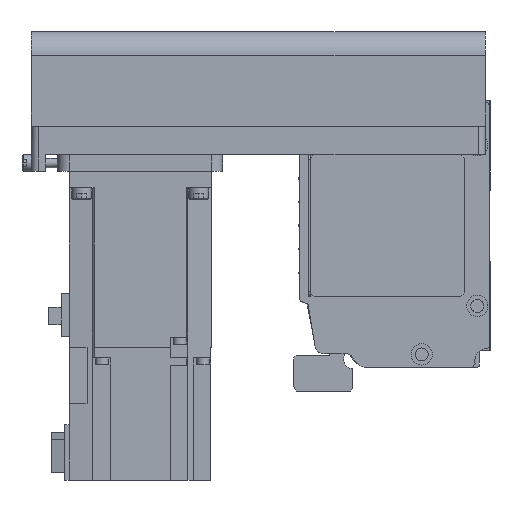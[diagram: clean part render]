
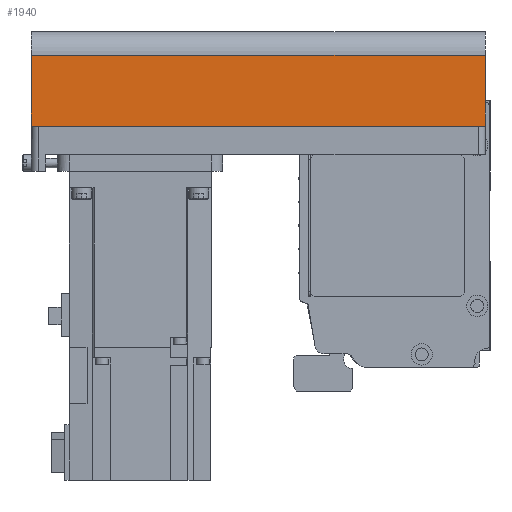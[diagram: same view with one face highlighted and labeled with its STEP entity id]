
A CAD part, left-side view. The second image highlights one B-rep face of the part: STEP entity #1940.
In plain terms, the highlighted planar face has unit normal (-1, 0, 0) as drawn and (0, 1, 0) by its records, which use the part's own axes.
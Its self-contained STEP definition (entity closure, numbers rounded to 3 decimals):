
#1940 = ADVANCED_FACE( '', ( #4096 ), #4097, .T. );
#4096 = FACE_OUTER_BOUND( '', #6440, .T. );
#4097 = PLANE( '', #6441 );
#6440 = EDGE_LOOP( '', ( #11847, #11848, #11849, #11850 ) );
#6441 = AXIS2_PLACEMENT_3D( '', #11851, #11852, #11853 );
#11847 = ORIENTED_EDGE( '', *, *, #14299, .F. );
#11848 = ORIENTED_EDGE( '', *, *, #14480, .F. );
#11849 = ORIENTED_EDGE( '', *, *, #15552, .T. );
#11850 = ORIENTED_EDGE( '', *, *, #15553, .T. );
#11851 = CARTESIAN_POINT( '', ( -192., 40., -42. ) );
#11852 = DIRECTION( '', ( 0., 1., 0. ) );
#11853 = DIRECTION( '', ( 0., 0., 1. ) );
#14299 = EDGE_CURVE( '', #17432, #17433, #17434, .T. );
#14480 = EDGE_CURVE( '', #17721, #17432, #17723, .T. );
#15552 = EDGE_CURVE( '', #17721, #18535, #19165, .T. );
#15553 = EDGE_CURVE( '', #18535, #17433, #19166, .T. );
#17432 = VERTEX_POINT( '', #21624 );
#17433 = VERTEX_POINT( '', #21625 );
#17434 = LINE( '', #21626, #21627 );
#17721 = VERTEX_POINT( '', #22007 );
#17723 = LINE( '', #22009, #22010 );
#18535 = VERTEX_POINT( '', #23106 );
#19165 = LINE( '', #23970, #23971 );
#19166 = LINE( '', #23972, #23973 );
#21624 = CARTESIAN_POINT( '', ( 0., 40., -42. ) );
#21625 = CARTESIAN_POINT( '', ( 0., 40., -12.1 ) );
#21626 = CARTESIAN_POINT( '', ( 0., 40., -42. ) );
#21627 = VECTOR( '', #25514, 1000. );
#22007 = CARTESIAN_POINT( '', ( -192., 40., -42. ) );
#22009 = CARTESIAN_POINT( '', ( -192., 40., -42. ) );
#22010 = VECTOR( '', #25761, 1000. );
#23106 = CARTESIAN_POINT( '', ( -192., 40., -12.1 ) );
#23970 = CARTESIAN_POINT( '', ( -192., 40., -42. ) );
#23971 = VECTOR( '', #26928, 1000. );
#23972 = CARTESIAN_POINT( '', ( -192., 40., -12.1 ) );
#23973 = VECTOR( '', #26929, 1000. );
#25514 = DIRECTION( '', ( 0., 0., 1. ) );
#25761 = DIRECTION( '', ( 1., 0., 0. ) );
#26928 = DIRECTION( '', ( 0., 0., 1. ) );
#26929 = DIRECTION( '', ( 1., 0., 0. ) );
